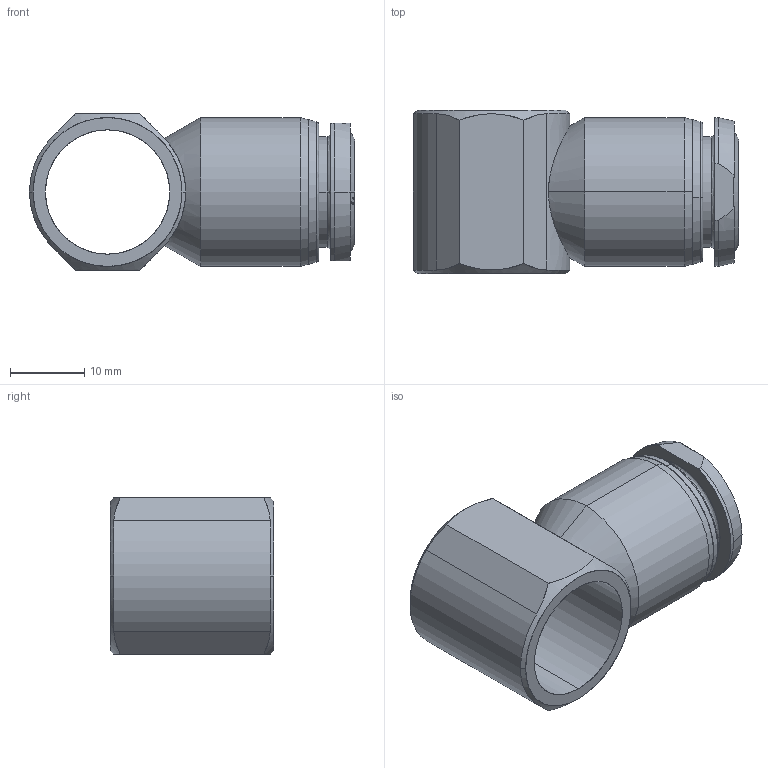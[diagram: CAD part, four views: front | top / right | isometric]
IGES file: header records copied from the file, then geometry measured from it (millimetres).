
Start section: SolidWorks IGES file using analytic representation for surfaces
Global section: file name: K:\Disegni Esecutivi\ALPHA TECHNOLOGIES\85000\Assiemi-85000\85500\IGES\8550000017A.IGS; native system: SolidWorks 2016; preprocessor: SolidWorks 2016; author: cad06; date: 200520.133203; units: millimetre
Bounding box: 43.7 x 22 x 21 mm (x, y, z)
Surface area: 6313.9 mm2 (no closed solid volume)
Topology: 0 solids, 0 shells, 92 faces, 1265 edges, 1265 vertices
Faces by surface type: revolution 55, bspline 37
